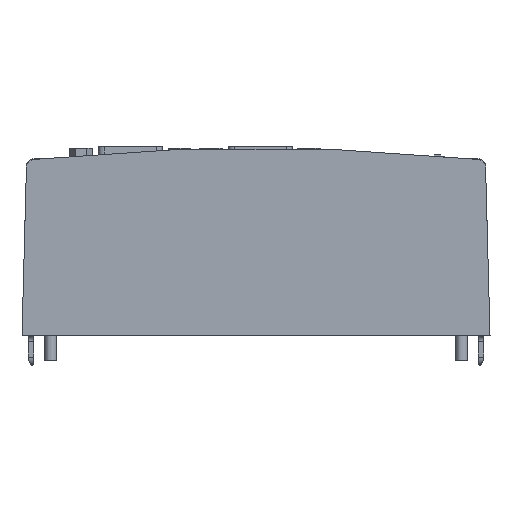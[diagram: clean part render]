
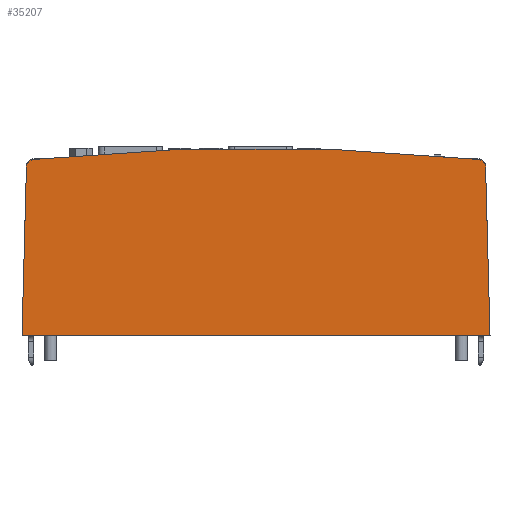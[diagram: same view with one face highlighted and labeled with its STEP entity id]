
A CAD part, left-side view. The second image highlights one B-rep face of the part: STEP entity #35207.
In plain terms, the highlighted planar face has unit normal (-1, 0, 0).
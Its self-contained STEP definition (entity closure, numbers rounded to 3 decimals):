
#1627=CIRCLE('',#37128,2.);
#1628=CIRCLE('',#37131,550.);
#1629=CIRCLE('',#37132,2.);
#2562=FACE_OUTER_BOUND('',#4436,.T.);
#4436=EDGE_LOOP('',(#22098,#22099,#22100,#22101,#22102,#22103));
#6587=LINE('',#47239,#10111);
#6590=LINE('',#47249,#10114);
#6591=LINE('',#47250,#10115);
#10111=VECTOR('',#39359,10.);
#10114=VECTOR('',#39368,10.);
#10115=VECTOR('',#39369,10.);
#13631=VERTEX_POINT('',#47232);
#13632=VERTEX_POINT('',#47234);
#13633=VERTEX_POINT('',#47238);
#13635=VERTEX_POINT('',#47244);
#13636=VERTEX_POINT('',#47246);
#13637=VERTEX_POINT('',#47248);
#17007=EDGE_CURVE('',#13631,#13632,#1627,.T.);
#17009=EDGE_CURVE('',#13632,#13633,#6587,.T.);
#17012=EDGE_CURVE('',#13635,#13631,#1628,.T.);
#17013=EDGE_CURVE('',#13636,#13635,#1629,.T.);
#17014=EDGE_CURVE('',#13637,#13636,#6590,.T.);
#17015=EDGE_CURVE('',#13633,#13637,#6591,.T.);
#22098=ORIENTED_EDGE('',*,*,#17007,.F.);
#22099=ORIENTED_EDGE('',*,*,#17012,.F.);
#22100=ORIENTED_EDGE('',*,*,#17013,.F.);
#22101=ORIENTED_EDGE('',*,*,#17014,.F.);
#22102=ORIENTED_EDGE('',*,*,#17015,.F.);
#22103=ORIENTED_EDGE('',*,*,#17009,.F.);
#32152=PLANE('',#37130);
#35207=ADVANCED_FACE('',(#2562),#32152,.F.);
#37128=AXIS2_PLACEMENT_3D('',#47235,#39354,#39355);
#37130=AXIS2_PLACEMENT_3D('',#47243,#39362,#39363);
#37131=AXIS2_PLACEMENT_3D('',#47245,#39364,#39365);
#37132=AXIS2_PLACEMENT_3D('',#47247,#39366,#39367);
#39354=DIRECTION('center_axis',(1.,0.,0.));
#39355=DIRECTION('ref_axis',(0.,-0.734,0.679));
#39359=DIRECTION('',(0.,-0.026,-1.));
#39362=DIRECTION('center_axis',(1.,0.,0.));
#39363=DIRECTION('ref_axis',(0.,0.,
1.));
#39364=DIRECTION('center_axis',(1.,0.,0.));
#39365=DIRECTION('ref_axis',(0.,0.106,0.994));
#39366=DIRECTION('center_axis',(1.,0.,0.));
#39367=DIRECTION('ref_axis',(0.,0.734,0.679));
#39368=DIRECTION('',(0.,-0.026,1.));
#39369=DIRECTION('',(0.,1.,0.));
#47232=CARTESIAN_POINT('',(-27.,-4.335,44.782));
#47234=CARTESIAN_POINT('',(-27.,-6.128,42.844));
#47235=CARTESIAN_POINT('Origin',(-27.,-4.129,42.792));
#47238=CARTESIAN_POINT('',(-27.,-7.25,0.));
#47239=CARTESIAN_POINT('',(-27.,-6.082,44.598));
#47243=CARTESIAN_POINT('Origin',(-27.,52.25,22.823));
#47244=CARTESIAN_POINT('',(-27.,108.835,44.782));
#47245=CARTESIAN_POINT('Origin',(-27.,52.25,-502.3));
#47246=CARTESIAN_POINT('',(-27.,110.628,42.844));
#47247=CARTESIAN_POINT('Origin',(-27.,108.629,42.792));
#47248=CARTESIAN_POINT('',(-27.,111.75,0.));
#47249=CARTESIAN_POINT('',(-27.,111.75,0.));
#47250=CARTESIAN_POINT('',(-27.,-7.25,0.));
